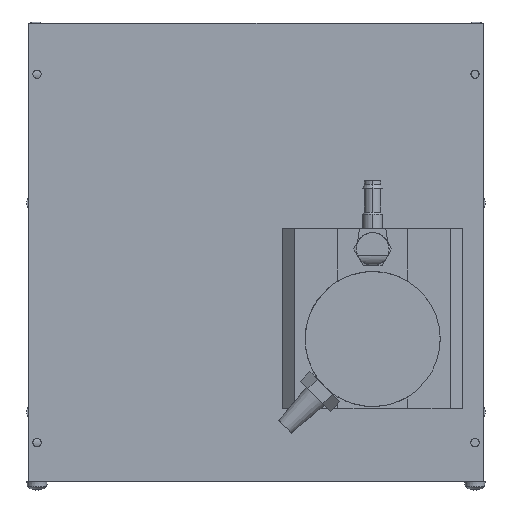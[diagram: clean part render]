
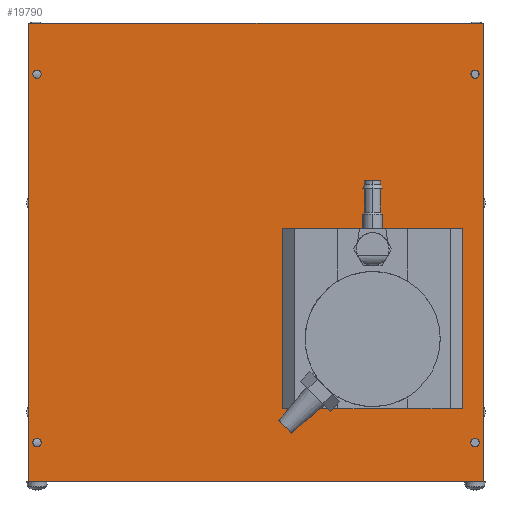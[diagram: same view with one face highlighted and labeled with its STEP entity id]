
A CAD part, front view. The second image highlights one B-rep face of the part: STEP entity #19790.
In plain terms, the highlighted planar face has unit normal (0, -1, 0).
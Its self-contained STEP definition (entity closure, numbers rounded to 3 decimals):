
#609=CARTESIAN_POINT('',(102.,-73.056,-50.2));
#610=VERTEX_POINT('',#609);
#611=CARTESIAN_POINT('',(58.,-73.056,-50.2));
#612=VERTEX_POINT('',#611);
#613=CARTESIAN_POINT('',(102.,-73.056,-50.2));
#614=DIRECTION('',(-1.0,0.0,0.0));
#615=VECTOR('',#614,44.0);
#616=LINE('',#613,#615);
#617=EDGE_CURVE('',#610,#612,#616,.T.);
#665=CARTESIAN_POINT('',(58.,-73.056,-94.2));
#666=VERTEX_POINT('',#665);
#667=CARTESIAN_POINT('',(102.,-73.056,-94.2));
#668=VERTEX_POINT('',#667);
#669=CARTESIAN_POINT('',(58.,-73.056,-94.2));
#670=DIRECTION('',(1.0,0.0,0.0));
#671=VECTOR('',#670,44.);
#672=LINE('',#669,#671);
#673=EDGE_CURVE('',#666,#668,#672,.T.);
#8289=CARTESIAN_POINT('',(58.,-73.056,-50.2));
#8290=DIRECTION('',(0.0,0.0,-1.0));
#8291=VECTOR('',#8290,44.0);
#8292=LINE('',#8289,#8291);
#8293=EDGE_CURVE('',#612,#666,#8292,.T.);
#8308=CARTESIAN_POINT('',(102.,-73.056,-94.2));
#8309=DIRECTION('',(0.0,0.0,1.0));
#8310=VECTOR('',#8309,44.0);
#8311=LINE('',#8308,#8310);
#8312=EDGE_CURVE('',#668,#610,#8311,.T.);
#11066=CARTESIAN_POINT('',(-4.,-73.056,0.));
#11067=VERTEX_POINT('',#11066);
#11074=CARTESIAN_POINT('',(107.,-73.056,0.));
#11075=VERTEX_POINT('',#11074);
#11076=CARTESIAN_POINT('',(-4.,-73.056,0.0));
#11077=DIRECTION('',(1.0,0.0,0.0));
#11078=VECTOR('',#11077,111.);
#11079=LINE('',#11076,#11078);
#11080=EDGE_CURVE('',#11067,#11075,#11079,.T.);
#11602=CARTESIAN_POINT('',(107.,-73.056,-112.));
#11603=VERTEX_POINT('',#11602);
#11604=CARTESIAN_POINT('',(107.,-73.056,0.));
#11605=DIRECTION('',(0.0,0.0,-1.0));
#11606=VECTOR('',#11605,112.);
#11607=LINE('',#11604,#11606);
#11608=EDGE_CURVE('',#11075,#11603,#11607,.T.);
#12311=CARTESIAN_POINT('',(105.,-73.056,-103.507));
#12312=VERTEX_POINT('',#12311);
#12313=CARTESIAN_POINT('',(105.,-73.056,-102.5));
#12314=DIRECTION('',(0.0,1.0,0.0));
#12315=DIRECTION('',(0.0,0.0,-1.0));
#12316=AXIS2_PLACEMENT_3D('',#12313,#12314,#12315);
#12317=CIRCLE('',#12316,1.007);
#12318=EDGE_CURVE('',#12312,#12312,#12317,.T.);
#12389=CARTESIAN_POINT('',(-4.,-73.056,-112.));
#12390=VERTEX_POINT('',#12389);
#12397=CARTESIAN_POINT('',(-4.,-73.056,-112.));
#12398=DIRECTION('',(0.0,0.0,1.0));
#12399=VECTOR('',#12398,112.);
#12400=LINE('',#12397,#12399);
#12401=EDGE_CURVE('',#12390,#11067,#12400,.T.);
#12975=CARTESIAN_POINT('',(-2.,-73.056,-11.493));
#12976=VERTEX_POINT('',#12975);
#12977=CARTESIAN_POINT('',(-2.,-73.056,-12.5));
#12978=DIRECTION('',(0.0,1.0,0.0));
#12979=DIRECTION('',(0.0,0.0,1.0));
#12980=AXIS2_PLACEMENT_3D('',#12977,#12978,#12979);
#12981=CIRCLE('',#12980,1.007);
#12982=EDGE_CURVE('',#12976,#12976,#12981,.T.);
#12997=CARTESIAN_POINT('',(-2.,-73.056,-101.493));
#12998=VERTEX_POINT('',#12997);
#12999=CARTESIAN_POINT('',(-2.,-73.056,-102.5));
#13000=DIRECTION('',(0.0,1.0,0.0));
#13001=DIRECTION('',(0.0,0.0,1.0));
#13002=AXIS2_PLACEMENT_3D('',#12999,#13000,#13001);
#13003=CIRCLE('',#13002,1.007);
#13004=EDGE_CURVE('',#12998,#12998,#13003,.T.);
#19030=CARTESIAN_POINT('',(107.,-73.056,-112.));
#19031=DIRECTION('',(-1.0,0.0,0.0));
#19032=VECTOR('',#19031,111.);
#19033=LINE('',#19030,#19032);
#19034=EDGE_CURVE('',#11603,#12390,#19033,.T.);
#19720=CARTESIAN_POINT('',(105.,-73.056,-13.507));
#19721=VERTEX_POINT('',#19720);
#19722=CARTESIAN_POINT('',(105.,-73.056,-12.5));
#19723=DIRECTION('',(0.0,1.0,0.0));
#19724=DIRECTION('',(0.0,0.0,-1.0));
#19725=AXIS2_PLACEMENT_3D('',#19722,#19723,#19724);
#19726=CIRCLE('',#19725,1.007);
#19727=EDGE_CURVE('',#19721,#19721,#19726,.T.);
#19761=CARTESIAN_POINT('',(0.,-73.056,0.0));
#19762=DIRECTION('',(0.0,-1.0,0.0));
#19763=DIRECTION('',(0.0,0.0,-1.0));
#19764=AXIS2_PLACEMENT_3D('',#19761,#19762,#19763);
#19765=PLANE('',#19764);
#19766=ORIENTED_EDGE('',*,*,#11608,.F.);
#19767=ORIENTED_EDGE('',*,*,#11080,.F.);
#19768=ORIENTED_EDGE('',*,*,#12401,.F.);
#19769=ORIENTED_EDGE('',*,*,#19034,.F.);
#19770=EDGE_LOOP('',(#19766,#19767,#19768,#19769));
#19771=FACE_OUTER_BOUND('',#19770,.T.);
#19772=ORIENTED_EDGE('',*,*,#19727,.T.);
#19773=EDGE_LOOP('',(#19772));
#19774=FACE_BOUND('',#19773,.T.);
#19775=ORIENTED_EDGE('',*,*,#12318,.T.);
#19776=EDGE_LOOP('',(#19775));
#19777=FACE_BOUND('',#19776,.T.);
#19778=ORIENTED_EDGE('',*,*,#13004,.T.);
#19779=EDGE_LOOP('',(#19778));
#19780=FACE_BOUND('',#19779,.T.);
#19781=ORIENTED_EDGE('',*,*,#12982,.T.);
#19782=EDGE_LOOP('',(#19781));
#19783=FACE_BOUND('',#19782,.T.);
#19784=ORIENTED_EDGE('',*,*,#673,.F.);
#19785=ORIENTED_EDGE('',*,*,#8293,.F.);
#19786=ORIENTED_EDGE('',*,*,#617,.F.);
#19787=ORIENTED_EDGE('',*,*,#8312,.F.);
#19788=EDGE_LOOP('',(#19784,#19785,#19786,#19787));
#19789=FACE_BOUND('',#19788,.T.);
#19790=ADVANCED_FACE('',(#19771,#19774,#19777,#19780,#19783,#19789),#19765,.T.);
